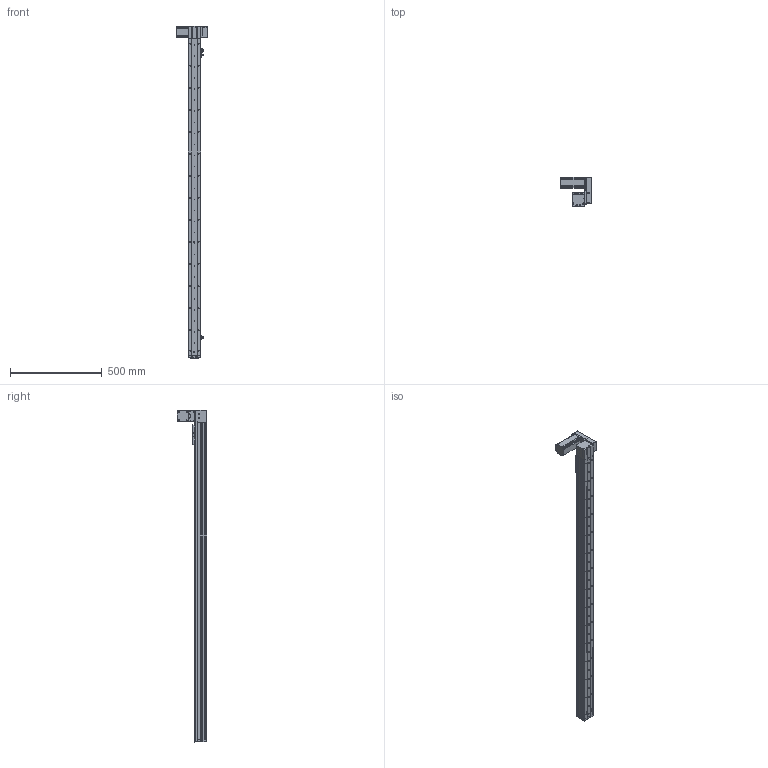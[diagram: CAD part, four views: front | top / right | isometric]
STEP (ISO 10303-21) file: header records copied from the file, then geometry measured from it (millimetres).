
FILE_DESCRIPTION (( 'STEP AP214' ), '1' );
FILE_NAME ('KSD68BS-S1550-MLU-CR.STEP', '2019-11-07T08:22:27', ( '微软用户' ), ( '微软中国' ), 'SwSTEP 2.0', 'SolidWorks 2014', '' );
FILE_SCHEMA (( 'AUTOMOTIVE_DESIGN' ));
Length unit declared in the file: millimetre
Products named in the file (14): 台达ECMA－C20604AS伺服电机（400W); KSD68BS 1550行程底板全封闭; KSD68BS-S1550-MLU-CR; 68宽单导轨全封闭丝杆传动安装板1防护罩; KSD68BS 1550行程侧板全封闭; 68宽单导轨全封闭同步带端板; 68遵裔啣揤啣1; KSD68BS 1550行程盖板全封闭; 68单导轨全封闭同步带电机座左; 68单导轨全封闭同步带安装板; 悵誘欶奻狟殏; 68宽马达安装板连板上折同步带; 感应片68宽全封闭; U倰嫖萇EEㄜSX672
Assembly tree (17 placements, depth 2):
  KSD68BS-S1550-MLU-CR
    KSD68BS 1550行程底板全封闭
    台达ECMA－C20604AS伺服电机（400W)
    U倰嫖萇EEㄜSX672  x3
    感应片68宽全封闭
    68宽马达安装板连板上折同步带
    悵誘欶奻狟殏
    68单导轨全封闭同步带安装板
    68单导轨全封闭同步带电机座左
    68宽单导轨全封闭同步带端板
    KSD68BS 1550行程侧板全封闭  x2
    68宽单导轨全封闭丝杆传动安装板1防护罩
    68遵裔啣揤啣1  x2
    KSD68BS 1550行程盖板全封闭
Bounding box: 167.2 x 159.5 x 1808.1 mm (x, y, z)
Volume: 3277310.9 mm3; surface area: 1321633.5 mm2
Topology: 18 solids, 18 shells, 1603 faces, 4613 edges, 2940 vertices
Faces by surface type: cylinder 786, plane 629, cone 188
Entity records: 52247 total; most frequent: CARTESIAN_POINT 9115, DIRECTION 7772, ORIENTED_EDGE 7438, EDGE_CURVE 3719, AXIS2_PLACEMENT_3D 2833, VERTEX_POINT 2438, LINE 2106, VECTOR 2106
